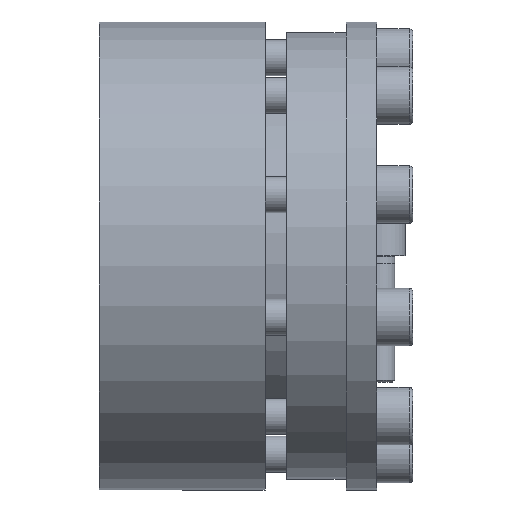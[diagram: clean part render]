
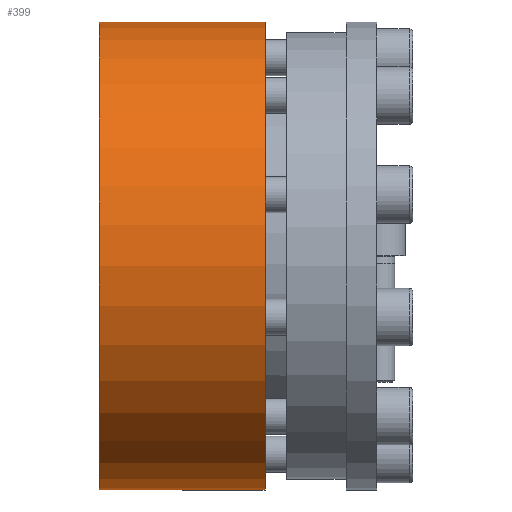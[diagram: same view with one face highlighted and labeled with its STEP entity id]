
A CAD part, left-side view. The second image highlights one B-rep face of the part: STEP entity #399.
In plain terms, the highlighted cylindrical face has radius 65 mm (diameter 130 mm), a partial arc.
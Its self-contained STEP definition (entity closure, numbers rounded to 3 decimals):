
#399 = ADVANCED_FACE( '', ( #639 ), #640, .T. );
#639 = FACE_OUTER_BOUND( '', #827, .T. );
#640 = CYLINDRICAL_SURFACE( '', #828, 65. );
#827 = EDGE_LOOP( '', ( #1097, #1098, #1099, #1100 ) );
#828 = AXIS2_PLACEMENT_3D( '', #1101, #1102, #1103 );
#1097 = ORIENTED_EDGE( '', *, *, #1430, .F. );
#1098 = ORIENTED_EDGE( '', *, *, #1437, .T. );
#1099 = ORIENTED_EDGE( '', *, *, #1442, .T. );
#1100 = ORIENTED_EDGE( '', *, *, #1402, .T. );
#1101 = CARTESIAN_POINT( '', ( 0., -60., 0. ) );
#1102 = DIRECTION( '', ( 0., 1., 0. ) );
#1103 = DIRECTION( '', ( 0., 0., -1. ) );
#1402 = EDGE_CURVE( '', #1555, #1553, #1556, .T. );
#1430 = EDGE_CURVE( '', #1606, #1553, #1608, .T. );
#1437 = EDGE_CURVE( '', #1606, #1619, #1621, .F. );
#1442 = EDGE_CURVE( '', #1619, #1555, #1629, .T. );
#1553 = VERTEX_POINT( '', #1707 );
#1555 = VERTEX_POINT( '', #1710 );
#1556 = LINE( '', #1711, #1712 );
#1606 = VERTEX_POINT( '', #1768 );
#1608 = CIRCLE( '', #1771, 65. );
#1619 = VERTEX_POINT( '', #1786 );
#1621 = LINE( '', #1789, #1790 );
#1629 = CIRCLE( '', #1801, 65. );
#1707 = CARTESIAN_POINT( '', ( 21.318, 31., 61.405 ) );
#1710 = CARTESIAN_POINT( '', ( 21.318, 77., 61.405 ) );
#1711 = CARTESIAN_POINT( '', ( 21.318, -60., 61.405 ) );
#1712 = VECTOR( '', #1859, 1000. );
#1768 = CARTESIAN_POINT( '', ( 18.846, 31., 62.208 ) );
#1771 = AXIS2_PLACEMENT_3D( '', #1930, #1931, #1932 );
#1786 = CARTESIAN_POINT( '', ( 18.846, 77., 62.208 ) );
#1789 = CARTESIAN_POINT( '', ( 18.846, -60., 62.208 ) );
#1790 = VECTOR( '', #1944, 1000. );
#1801 = AXIS2_PLACEMENT_3D( '', #1951, #1952, #1953 );
#1859 = DIRECTION( '', ( 0., -1., 0. ) );
#1930 = CARTESIAN_POINT( '', ( 0., 31., 0. ) );
#1931 = DIRECTION( '', ( 0., -1., 0. ) );
#1932 = DIRECTION( '', ( 0., 0., -1. ) );
#1944 = DIRECTION( '', ( 0., -1., 0. ) );
#1951 = CARTESIAN_POINT( '', ( 0., 77., 0. ) );
#1952 = DIRECTION( '', ( 0., -1., 0. ) );
#1953 = DIRECTION( '', ( 0., 0., -1. ) );
